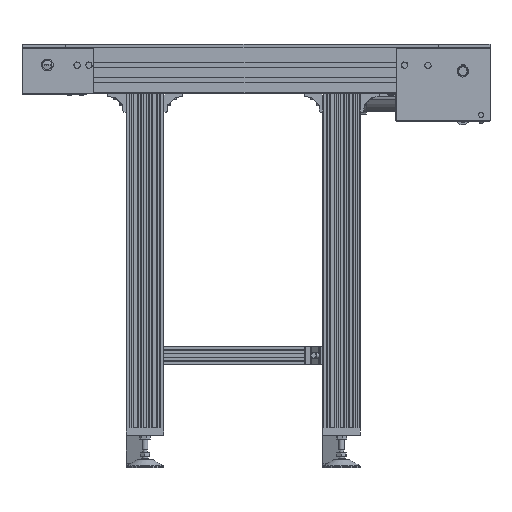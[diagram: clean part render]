
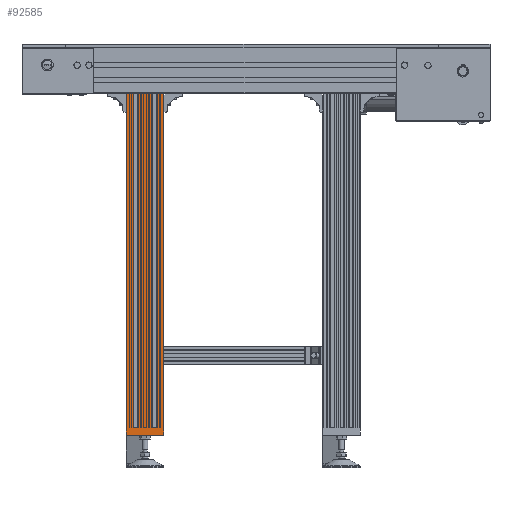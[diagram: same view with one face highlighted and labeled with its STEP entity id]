
A CAD part, front view. The second image highlights one B-rep face of the part: STEP entity #92585.
In plain terms, the highlighted planar face has unit normal (0, -1, 0).
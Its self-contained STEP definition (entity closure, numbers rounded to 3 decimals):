
#2508=LINE('',#133685,#11100);
#2524=LINE('',#133729,#11116);
#2540=LINE('',#133773,#11132);
#4706=LINE('',#140533,#13298);
#5152=LINE('',#142709,#13744);
#5169=LINE('',#142755,#13761);
#5185=LINE('',#142800,#13777);
#5186=LINE('',#142804,#13778);
#5250=LINE('',#142985,#13842);
#5296=LINE('',#143252,#13888);
#5478=LINE('',#143644,#14070);
#5479=LINE('',#143646,#14071);
#5480=LINE('',#143647,#14072);
#5481=LINE('',#143648,#14073);
#5482=LINE('',#143649,#14074);
#5483=LINE('',#143650,#14075);
#11100=VECTOR('',#107647,13.45);
#11116=VECTOR('',#107675,28.9);
#11132=VECTOR('',#107703,13.45);
#13298=VECTOR('',#112879,15.);
#13744=VECTOR('',#114483,1.);
#13761=VECTOR('',#114514,11.1);
#13777=VECTOR('',#114544,11.1);
#13778=VECTOR('',#114549,1.);
#13842=VECTOR('',#114679,80.);
#13888=VECTOR('',#114847,15.);
#14070=VECTOR('',#115325,715.);
#14071=VECTOR('',#115328,715.);
#14072=VECTOR('',#115329,715.);
#14073=VECTOR('',#115330,715.);
#14074=VECTOR('',#115331,715.);
#14075=VECTOR('',#115332,715.);
#19649=PLANE('',#99216);
#25825=FACE_OUTER_BOUND('',#31288,.T.);
#31288=EDGE_LOOP('',(#70171,#70172,#70173,#70174,#70175,#70176,#70177,#70178,
#70179,#70180,#70181,#70182,#70183,#70184,#70185,#70186));
#39638=VERTEX_POINT('',#133682);
#39639=VERTEX_POINT('',#133684);
#39660=VERTEX_POINT('',#133726);
#39661=VERTEX_POINT('',#133728);
#39682=VERTEX_POINT('',#133770);
#39683=VERTEX_POINT('',#133772);
#41887=VERTEX_POINT('',#140530);
#41888=VERTEX_POINT('',#140532);
#42521=VERTEX_POINT('',#142705);
#42523=VERTEX_POINT('',#142708);
#42525=VERTEX_POINT('',#142713);
#42545=VERTEX_POINT('',#142753);
#42547=VERTEX_POINT('',#142758);
#42567=VERTEX_POINT('',#142798);
#42568=VERTEX_POINT('',#142802);
#42652=VERTEX_POINT('',#142983);
#48696=EDGE_CURVE('',#39638,#39639,#2508,.T.);
#48718=EDGE_CURVE('',#39660,#39661,#2524,.T.);
#48740=EDGE_CURVE('',#39682,#39683,#2540,.T.);
#51740=EDGE_CURVE('',#41888,#41887,#4706,.T.);
#52606=EDGE_CURVE('',#42523,#42521,#5152,.T.);
#52629=EDGE_CURVE('',#42525,#42545,#5169,.T.);
#52651=EDGE_CURVE('',#42547,#42567,#5185,.T.);
#52653=EDGE_CURVE('',#42568,#41888,#5186,.T.);
#52743=EDGE_CURVE('',#41887,#42652,#5250,.T.);
#52822=EDGE_CURVE('',#42523,#42652,#5296,.T.);
#53016=EDGE_CURVE('',#42521,#39683,#5478,.T.);
#53017=EDGE_CURVE('',#42525,#39682,#5479,.T.);
#53018=EDGE_CURVE('',#42545,#39661,#5480,.T.);
#53019=EDGE_CURVE('',#42547,#39660,#5481,.T.);
#53020=EDGE_CURVE('',#42567,#39639,#5482,.T.);
#53021=EDGE_CURVE('',#42568,#39638,#5483,.T.);
#70171=ORIENTED_EDGE('',*,*,#53016,.T.);
#70172=ORIENTED_EDGE('',*,*,#48740,.F.);
#70173=ORIENTED_EDGE('',*,*,#53017,.F.);
#70174=ORIENTED_EDGE('',*,*,#52629,.T.);
#70175=ORIENTED_EDGE('',*,*,#53018,.T.);
#70176=ORIENTED_EDGE('',*,*,#48718,.F.);
#70177=ORIENTED_EDGE('',*,*,#53019,.F.);
#70178=ORIENTED_EDGE('',*,*,#52651,.T.);
#70179=ORIENTED_EDGE('',*,*,#53020,.T.);
#70180=ORIENTED_EDGE('',*,*,#48696,.F.);
#70181=ORIENTED_EDGE('',*,*,#53021,.F.);
#70182=ORIENTED_EDGE('',*,*,#52653,.T.);
#70183=ORIENTED_EDGE('',*,*,#51740,.T.);
#70184=ORIENTED_EDGE('',*,*,#52743,.T.);
#70185=ORIENTED_EDGE('',*,*,#52822,.F.);
#70186=ORIENTED_EDGE('',*,*,#52606,.T.);
#92585=ADVANCED_FACE('',(#25825),#19649,.T.);
#99216=AXIS2_PLACEMENT_3D('',#143645,#115326,#115327);
#107647=DIRECTION('',(1.,0.,0.));
#107675=DIRECTION('',(1.,0.,0.));
#107703=DIRECTION('',(1.,0.,0.));
#112879=DIRECTION('',(0.,0.,-1.));
#114483=DIRECTION('',(-1.,0.,0.));
#114514=DIRECTION('',(-1.,0.,0.));
#114544=DIRECTION('',(-1.,0.,0.));
#114549=DIRECTION('',(-1.,0.,0.));
#114679=DIRECTION('',(1.,0.,0.));
#114847=DIRECTION('',(0.,0.,-1.));
#115325=DIRECTION('',(0.,0.,1.));
#115326=DIRECTION('center_axis',(0.,-1.,0.));
#115327=DIRECTION('ref_axis',(1.,0.,0.));
#115328=DIRECTION('',(0.,0.,1.));
#115329=DIRECTION('',(0.,0.,1.));
#115330=DIRECTION('',(0.,0.,1.));
#115331=DIRECTION('',(0.,0.,1.));
#115332=DIRECTION('',(0.,0.,1.));
#133682=CARTESIAN_POINT('',(224.,-205.,1.45));
#133684=CARTESIAN_POINT('',(237.45,-205.,1.45));
#133685=CARTESIAN_POINT('',(224.,-205.,1.45));
#133726=CARTESIAN_POINT('',(248.55,-205.,1.45));
#133728=CARTESIAN_POINT('',(277.45,-205.,1.45));
#133729=CARTESIAN_POINT('',(248.55,-205.,1.45));
#133770=CARTESIAN_POINT('',(288.55,-205.,1.45));
#133772=CARTESIAN_POINT('',(302.,-205.,1.45));
#133773=CARTESIAN_POINT('',(288.55,-205.,1.45));
#140530=CARTESIAN_POINT('',(223.,-205.,-728.55));
#140532=CARTESIAN_POINT('',(223.,-205.,-713.55));
#140533=CARTESIAN_POINT('',(223.,-205.,-713.55));
#142705=CARTESIAN_POINT('',(302.,-205.,-713.55));
#142708=CARTESIAN_POINT('',(303.,-205.,-713.55));
#142709=CARTESIAN_POINT('',(303.,-205.,-713.55));
#142713=CARTESIAN_POINT('',(288.55,-205.,-713.55));
#142753=CARTESIAN_POINT('',(277.45,-205.,-713.55));
#142755=CARTESIAN_POINT('',(303.,-205.,-713.55));
#142758=CARTESIAN_POINT('',(248.55,-205.,-713.55));
#142798=CARTESIAN_POINT('',(237.45,-205.,-713.55));
#142800=CARTESIAN_POINT('',(303.,-205.,-713.55));
#142802=CARTESIAN_POINT('',(224.,-205.,-713.55));
#142804=CARTESIAN_POINT('',(303.,-205.,-713.55));
#142983=CARTESIAN_POINT('',(303.,-205.,-728.55));
#142985=CARTESIAN_POINT('',(303.,-205.,-728.55));
#143252=CARTESIAN_POINT('',(303.,-205.,-713.55));
#143644=CARTESIAN_POINT('',(302.,-205.,-713.55));
#143645=CARTESIAN_POINT('Origin',(288.55,-205.,-713.55));
#143646=CARTESIAN_POINT('',(288.55,-205.,-713.55));
#143647=CARTESIAN_POINT('',(277.45,-205.,-713.55));
#143648=CARTESIAN_POINT('',(248.55,-205.,-713.55));
#143649=CARTESIAN_POINT('',(237.45,-205.,-713.55));
#143650=CARTESIAN_POINT('',(224.,-205.,-713.55));
